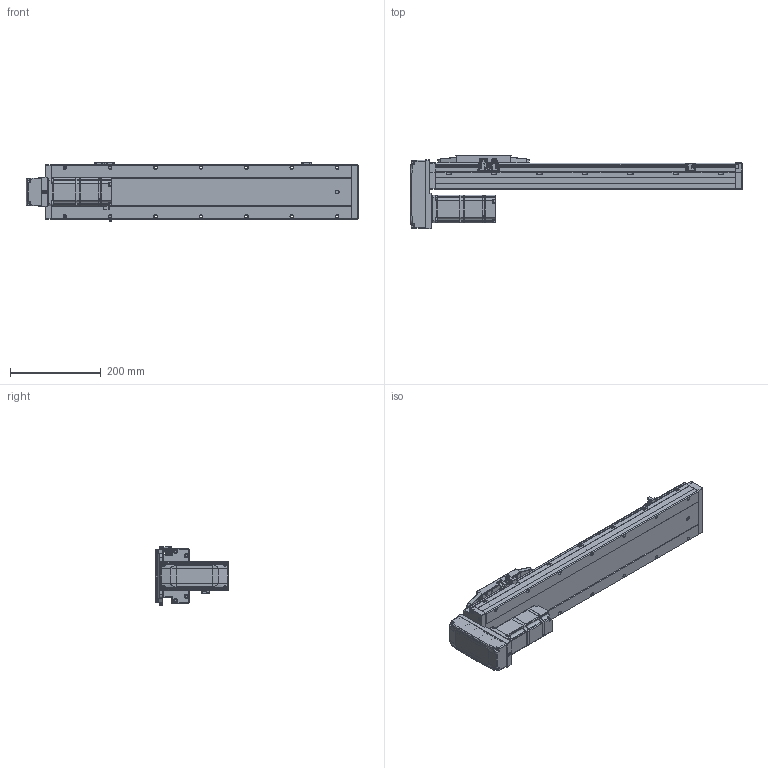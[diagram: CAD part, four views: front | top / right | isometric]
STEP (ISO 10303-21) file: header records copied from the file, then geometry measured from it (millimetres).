
FILE_DESCRIPTION (( 'STEP AP214' ), '1' );
FILE_NAME ('CTH12-L10-S450-BM-C40（简）.STEP', '2023-02-04T06:49:59', ( '' ), ( '' ), 'SwSTEP 2.0', 'SolidWorks 2018', '' );
FILE_SCHEMA (( 'AUTOMOTIVE_DESIGN' ));
Length unit declared in the file: millimetre
Products named in the file (25): CTH12-BM-02; 内六角圆柱头螺钉M3; CTH12賑怢郪磁; CTH12-BL_body_4; CTH12; CTH嫖萇羲壽假蚾啣; CTH12覜茼え; 湮賑怢  裔赽-1(CTH12)賑怢; CTH12賑怢ㄗ潠ㄘ; CTH12_body_3; BM-C40; hex nuts, style 1-grades ab gb_GB_FASTENER_NUT_SNAB1 M3-N; CTH400W假蚾啣; PM-Y45; 嫖萇羲壽郪磁1; CTH12底座-L661简（450行程）; 内六角圆柱头螺钉M3-2; CTH400W垫板（3个厚）; 内六角圆柱头螺钉M5装饰螺钉; 蚐郲; 嫖萇羲壽郪磁2; CTH12-L10-S450-BM-C40（简）; 内六角圆柱头螺钉M3-1; CTH8耜蚾蟀諉啣ㄗ潠ㄘ; AC60_Valor predeterminado
Assembly tree (45 placements, depth 4):
  CTH12-L10-S450-BM-C40（简）
    CTH12底座-L661简（450行程）
    蚐郲  x2
    CTH12_body_3
    CTH12-BL_body_4
    CTH12賑怢郪磁
      CTH12
        湮賑怢  裔赽-1(CTH12)賑怢
        CTH12賑怢ㄗ潠ㄘ
    CTH12覜茼え
    嫖萇羲壽郪磁1  x2
      CTH嫖萇羲壽假蚾啣
      PM-Y45
      内六角圆柱头螺钉M3-2
      内六角圆柱头螺钉M3-1
      hex nuts, style 1-grades ab gb_GB_FASTENER_NUT_SNAB1 M3-N
    嫖萇羲壽郪磁2
      CTH嫖萇羲壽假蚾啣
      PM-Y45
      内六角圆柱头螺钉M3-1  x2
      内六角圆柱头螺钉M3-2  x2
      hex nuts, style 1-grades ab gb_GB_FASTENER_NUT_SNAB1 M3-N  x2
    BM-C40
      CTH12-BM-02
      CTH8耜蚾蟀諉啣ㄗ潠ㄘ
    CTH400W垫板（3个厚）
    AC60_Valor predeterminado
    内六角圆柱头螺钉M3  x6
    内六角圆柱头螺钉M5装饰螺钉  x4
    CTH400W假蚾啣
Bounding box: 731.5 x 162.5 x 131.52 mm (x, y, z)
Volume: 5130754.8 mm3; surface area: 550437 mm2
Topology: 47 solids, 48 shells, 2718 faces, 6882 edges, 4383 vertices
Faces by surface type: plane 1470, cylinder 811, cone 279, bspline 106, torus 52
Entity records: 74097 total; most frequent: CARTESIAN_POINT 17261, ORIENTED_EDGE 10944, DIRECTION 10873, EDGE_CURVE 5472, AXIS2_PLACEMENT_3D 3691, LINE 3491, VECTOR 3491, VERTEX_POINT 3487
